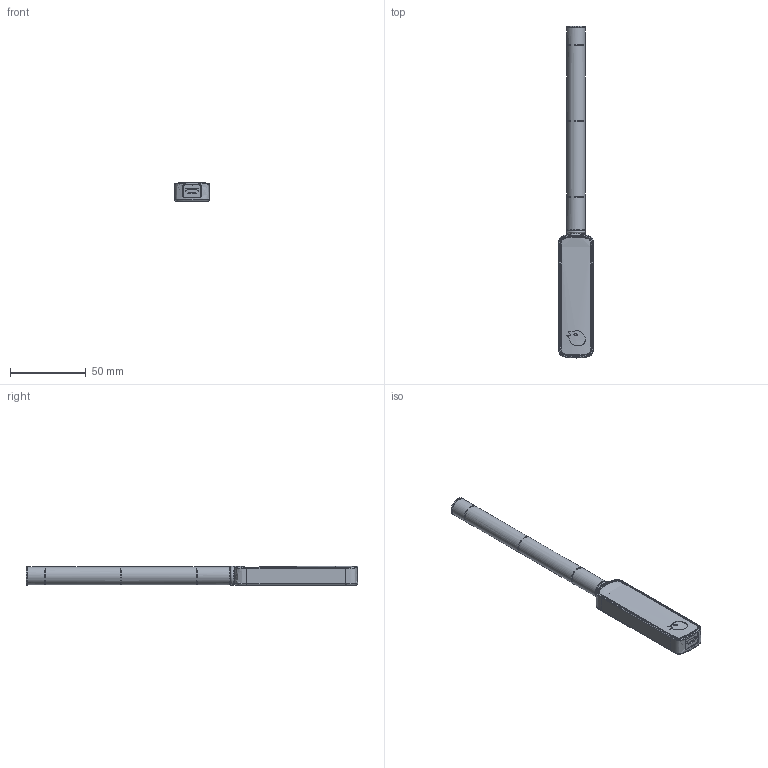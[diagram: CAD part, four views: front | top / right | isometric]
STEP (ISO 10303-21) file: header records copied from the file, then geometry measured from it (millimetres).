
FILE_DESCRIPTION (( 'STEP AP214' ), '1' );
FILE_NAME ('8252030-DSM - X2 CT Sensor - external geometry.STEP', '2024-02-05T11:02:04', ( '' ), ( '' ), 'SwSTEP 2.0', 'SolidWorks 2021', '' );
FILE_SCHEMA (( 'AUTOMOTIVE_DESIGN' ));
Length unit declared in the file: millimetre
Products named in the file (1): 8252030-DSM - X2 CT Sensor - external geometry
Bounding box: 22.99 x 219.14 x 13.13 mm (x, y, z)
Volume: 37961.4 mm3; surface area: 14006.9 mm2
Topology: 4 solids, 8 shells, 316 faces, 785 edges, 515 vertices
Faces by surface type: cylinder 134, plane 126, bspline 41, torus 8, cone 7
Full cylindrical faces by diameter (mm): 3.5 x1, 5.2 x4, 10.95 x1, 11 x1, 11.15 x4, 12 x1, 12.4 x3
Entity records: 19172 total; most frequent: CARTESIAN_POINT 8924, ORIENTED_EDGE 1470, DIRECTION 1273, EDGE_CURVE 735, VERTEX_POINT 493, AXIS2_PLACEMENT_3D 472, EDGE_LOOP 376, FACE_OUTER_BOUND 334
